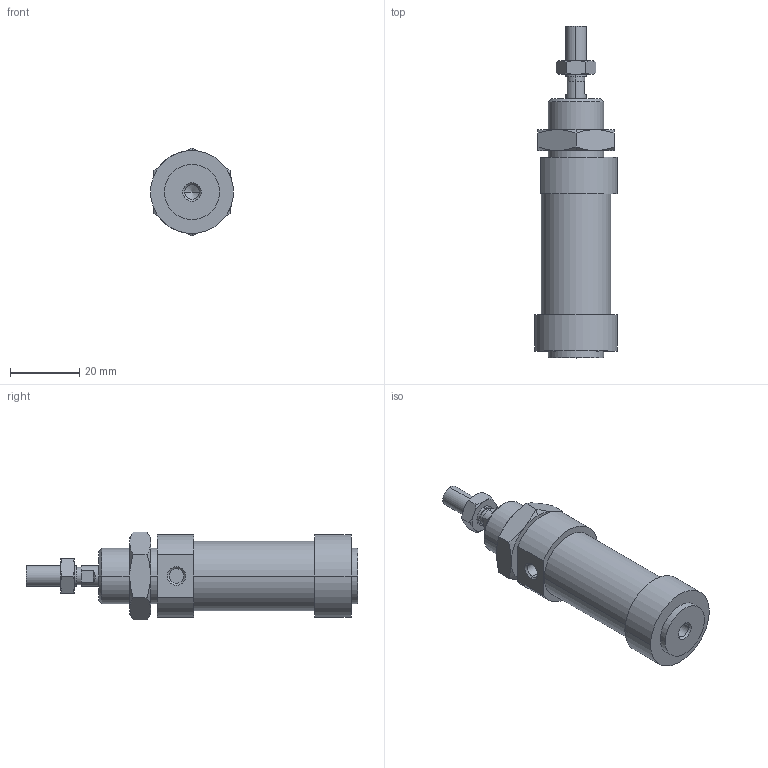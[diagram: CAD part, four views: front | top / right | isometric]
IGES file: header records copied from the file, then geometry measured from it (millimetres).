
Global section: file name: No Iges File Name specified; native system: AutoDesk Inventor R6.0; preprocessor: AutoDesk Inventor Iges Exporter R6.0; author: No Author specified; organization: No Organization specified; date: 20030402.184124; units: millimetre
Bounding box: 24 x 96 x 25.4 mm (x, y, z)
Volume: 26295.3 mm3; surface area: 8961.8 mm2
Topology: 4 solids, 4 shells, 108 faces, 229 edges, 135 vertices
Faces by surface type: cone 34, plane 33, bspline 21, cylinder 16, revolution 4
